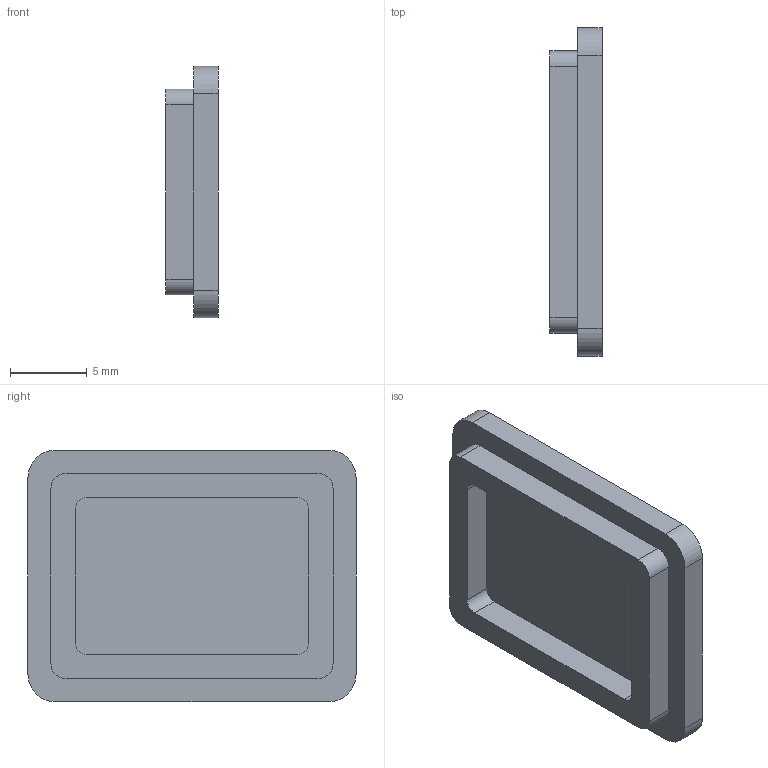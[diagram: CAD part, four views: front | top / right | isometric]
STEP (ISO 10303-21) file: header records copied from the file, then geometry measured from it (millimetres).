
FILE_DESCRIPTION(('Open CASCADE Model'),'2;1');
FILE_NAME('Open CASCADE Shape Model','2026-10-21T17:27:38',('Author'),( 'Open CASCADE'),'Open CASCADE STEP processor 7.9','Open CASCADE 7.9' ,'Unknown');
FILE_SCHEMA(('AUTOMOTIVE_DESIGN { 1 0 10303 214 1 1 1 1 }'));
Length unit declared in the file: millimetre
Products named in the file (1): Open CASCADE STEP translator 7.9 4
Bounding box: 3.4 x 21.4 x 16.4 mm (x, y, z)
Volume: 721 mm3; surface area: 1013 mm2
Topology: 1 solids, 1 shells, 28 faces, 72 edges, 48 vertices
Faces by surface type: plane 16, cylinder 12
Entity records: 1830 total; most frequent: CARTESIAN_POINT 341, DIRECTION 290, LINE 168, VECTOR 168, ORIENTED_EDGE 144, PCURVE 144, DEFINITIONAL_REPRESENTATION 144, EDGE_CURVE 72
